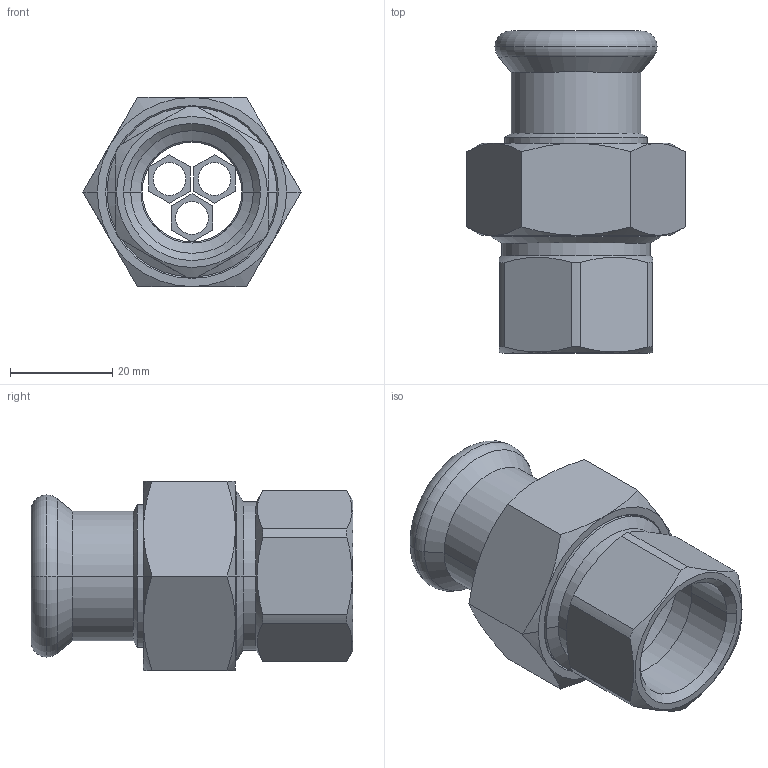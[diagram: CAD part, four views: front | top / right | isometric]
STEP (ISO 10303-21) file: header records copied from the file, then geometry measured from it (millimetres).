
FILE_DESCRIPTION(('OneSpaceDesigner STEP Export'),'2;1');
FILE_NAME('R2738 22xRp3-4.stp','2010-06-10T14:24:16',(''),(''),'OneSpace Designer STEP processor for AP214 (Solid Model)','OneSpace Modeling 15.00A 14-Mar-2007 (C) CoCreate Software GmbH','');
FILE_SCHEMA(('AUTOMOTIVE_DESIGN { 1 0 10303 214 1 1 1 1 }'));
Length unit declared in the file: millimetre
Products named in the file (2): R2738_22xRp3-4
Assembly tree (1 placements, depth 2):
  R2738_22xRp3-4
    R2738_22xRp3-4
Bounding box: 42.72 x 63 x 37 mm (x, y, z)
Volume: 25654.6 mm3; surface area: 15281.3 mm2
Topology: 1 solids, 1 shells, 150 faces, 369 edges, 226 vertices
Faces by surface type: cone 53, plane 46, cylinder 43, torus 8
Entity records: 5673 total; most frequent: CARTESIAN_POINT 2560, ORIENTED_EDGE 738, DIRECTION 493, EDGE_CURVE 369, VERTEX_POINT 226, VECTOR 171, LINE 171, EDGE_LOOP 163
